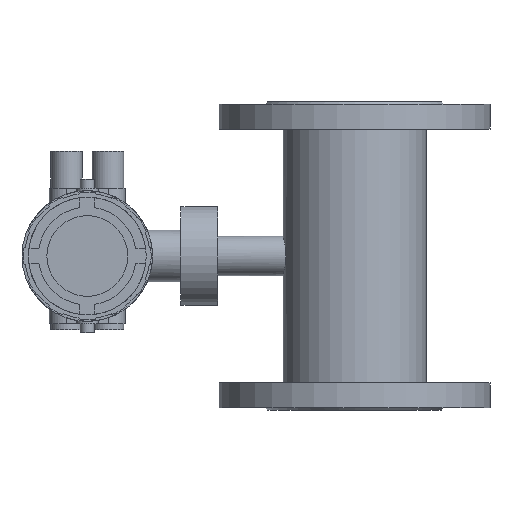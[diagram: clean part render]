
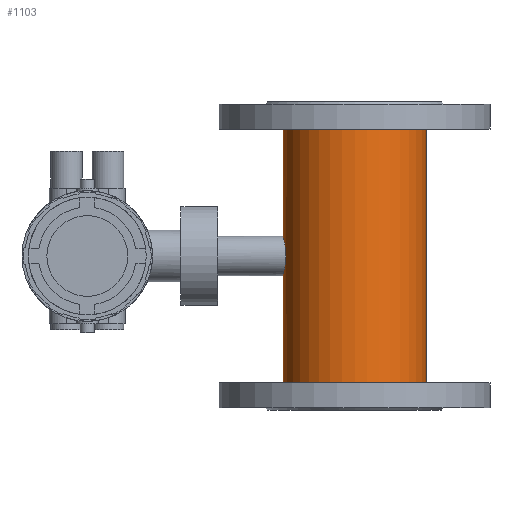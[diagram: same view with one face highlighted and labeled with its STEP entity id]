
A CAD part, front view. The second image highlights one B-rep face of the part: STEP entity #1103.
In plain terms, the highlighted cylindrical face has radius 58 mm (diameter 116 mm), a full revolution.
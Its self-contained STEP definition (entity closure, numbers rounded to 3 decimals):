
#1103=ADVANCED_FACE('',(#1309,#1310,#1311),#1212,.T.);
#1212=CYLINDRICAL_SURFACE('',#4260,58.);
#1232=B_SPLINE_CURVE_WITH_KNOTS('',3,(#5489,#5490,#5491,#5492,#5493,#5494,
#5495,#5496,#5497,#5498,#5499,#5500,#5501,#5502,#5503,#5504,#5505,#5506,
#5507,#5508,#5509,#5510),.UNSPECIFIED.,.T.,.F.,(2,2,2,2,2,2,2,2,2,2,2,2,
2),(-0.125,0.,0.063,0.125,0.25,0.375,0.438,0.5,0.625,0.75,
0.875,1.,1.063),.UNSPECIFIED.);
#1309=FACE_BOUND('',#1615,.T.);
#1310=FACE_BOUND('',#1616,.T.);
#1311=FACE_BOUND('',#1617,.T.);
#1615=EDGE_LOOP('',(#2685));
#1616=EDGE_LOOP('',(#2686));
#1617=EDGE_LOOP('',(#2687));
#2685=ORIENTED_EDGE('',*,*,#3644,.T.);
#2686=ORIENTED_EDGE('',*,*,#3645,.F.);
#2687=ORIENTED_EDGE('',*,*,#3154,.T.);
#2775=VERTEX_POINT('',#5511);
#3109=VERTEX_POINT('',#6661);
#3110=VERTEX_POINT('',#6663);
#3154=EDGE_CURVE('',#2775,#2775,#1232,.T.);
#3644=EDGE_CURVE('',#3109,#3109,#3857,.T.);
#3645=EDGE_CURVE('',#3110,#3110,#3858,.T.);
#3857=CIRCLE('',#4258,58.);
#3858=CIRCLE('',#4259,58.);
#4258=AXIS2_PLACEMENT_3D('',#6660,#5342,#5343);
#4259=AXIS2_PLACEMENT_3D('',#6662,#5344,#5345);
#4260=AXIS2_PLACEMENT_3D('',#6664,#5346,#5347);
#5342=DIRECTION('',(0.,0.,-1.));
#5343=DIRECTION('',(1.,0.,0.));
#5344=DIRECTION('',(0.,0.,-1.));
#5345=DIRECTION('',(-1.,0.,0.));
#5346=DIRECTION('',(0.,0.,1.));
#5347=DIRECTION('',(1.,0.,0.));
#5489=CARTESIAN_POINT('',(158.8,-4.25,-139.5));
#5490=CARTESIAN_POINT('',(158.8,2.125,-139.5));
#5491=CARTESIAN_POINT('',(158.92,4.21,-139.078));
#5492=CARTESIAN_POINT('',(159.333,8.08,-137.468));
#5493=CARTESIAN_POINT('',(159.623,9.849,-136.279));
#5494=CARTESIAN_POINT('',(160.499,14.252,-131.874));
#5495=CARTESIAN_POINT('',(161.05,15.997,-127.707));
#5496=CARTESIAN_POINT('',(161.051,16.003,-119.314));
#5497=CARTESIAN_POINT('',(160.503,14.273,-115.146));
#5498=CARTESIAN_POINT('',(159.62,9.835,-110.707));
#5499=CARTESIAN_POINT('',(159.332,8.071,-109.528));
#5500=CARTESIAN_POINT('',(158.921,4.212,-107.924));
#5501=CARTESIAN_POINT('',(158.8,2.101,-107.501));
#5502=CARTESIAN_POINT('',(158.8,-4.182,-107.498));
#5503=CARTESIAN_POINT('',(159.326,-8.354,-109.23));
#5504=CARTESIAN_POINT('',(160.5,-14.26,-115.129));
#5505=CARTESIAN_POINT('',(161.05,-15.998,-119.273));
#5506=CARTESIAN_POINT('',(161.051,-16.002,-127.714));
#5507=CARTESIAN_POINT('',(160.499,-14.254,-131.87));
#5508=CARTESIAN_POINT('',(159.332,-8.387,-137.744));
#5509=CARTESIAN_POINT('',(158.8,-4.25,-139.5));
#5510=CARTESIAN_POINT('',(158.8,2.125,-139.5));
#5511=CARTESIAN_POINT('',(158.8,0.,-139.5));
#6660=CARTESIAN_POINT('',(216.8,0.,-20.5));
#6661=CARTESIAN_POINT('',(274.8,0.,-20.5));
#6662=CARTESIAN_POINT('',(216.8,0.,-226.5));
#6663=CARTESIAN_POINT('',(158.8,0.,-226.5));
#6664=CARTESIAN_POINT('',(216.8,0.,-335.5));
